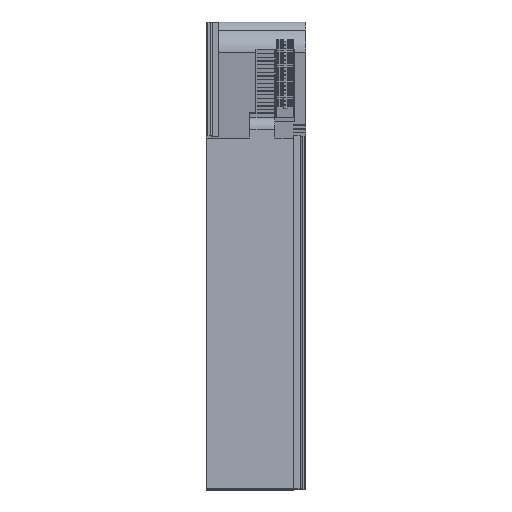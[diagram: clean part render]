
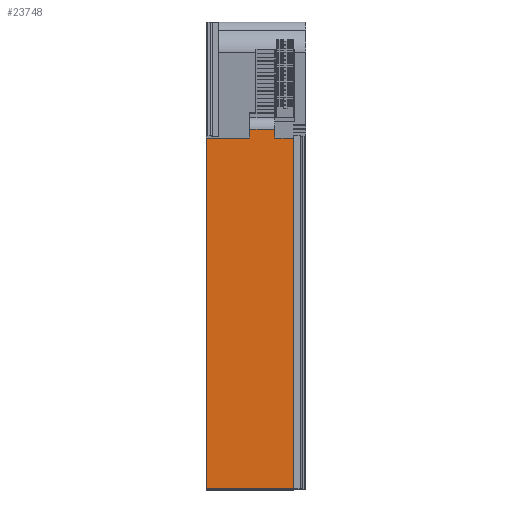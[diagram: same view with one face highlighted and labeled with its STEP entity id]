
A CAD part, top view. The second image highlights one B-rep face of the part: STEP entity #23748.
In plain terms, the highlighted planar face has unit normal (0, 0, 1).
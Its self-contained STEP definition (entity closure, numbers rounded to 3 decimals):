
#425 = CARTESIAN_POINT ( 'NONE',  ( 1890.845, 56.25, -1204.638 ) ) ;
#493 = EDGE_CURVE ( 'NONE', #16015, #14229, #34012, .T. ) ;
#604 = LINE ( 'NONE', #28389, #15308 ) ;
#2808 = DIRECTION ( 'NONE',  ( 0., -1., 0. ) ) ;
#4385 = CARTESIAN_POINT ( 'NONE',  ( 1876.845, 75., -1204.638 ) ) ;
#4572 = LINE ( 'NONE', #4385, #29744 ) ;
#5729 = CARTESIAN_POINT ( 'NONE',  ( 1876.845, 0., -1204.638 ) ) ;
#6574 = CARTESIAN_POINT ( 'NONE',  ( 1890.845, 0., -1204.638 ) ) ;
#6617 = CARTESIAN_POINT ( 'NONE',  ( 1883.845, 56.25, -1204.638 ) ) ;
#8282 = DIRECTION ( 'NONE',  ( -1., 0., 0. ) ) ;
#8366 = DIRECTION ( 'NONE',  ( 0., -1., 0. ) ) ;
#9563 = EDGE_CURVE ( 'NONE', #17201, #14229, #604, .T. ) ;
#9762 = ORIENTED_EDGE ( 'NONE', *, *, #22370, .T. ) ;
#10174 = EDGE_CURVE ( 'NONE', #17201, #20147, #30108, .T. ) ;
#11018 = VECTOR ( 'NONE', #18929, 1000. ) ;
#11024 = PLANE ( 'NONE',  #28816 ) ;
#11384 = FACE_OUTER_BOUND ( 'NONE', #18650, .T. ) ;
#11792 = CARTESIAN_POINT ( 'NONE',  ( 1887.845, 56.25, -1204.638 ) ) ;
#11819 = VECTOR ( 'NONE', #8366, 1000. ) ;
#12994 = DIRECTION ( 'NONE',  ( 0., -1., 0. ) ) ;
#13005 = VERTEX_POINT ( 'NONE', #5729 ) ;
#14109 = CARTESIAN_POINT ( 'NONE',  ( 1869.845, 56.25, -1204.638 ) ) ;
#14229 = VERTEX_POINT ( 'NONE', #6617 ) ;
#14588 = LINE ( 'NONE', #25376, #11819 ) ;
#14591 = VERTEX_POINT ( 'NONE', #6574 ) ;
#15308 = VECTOR ( 'NONE', #2808, 1000. ) ;
#16015 = VERTEX_POINT ( 'NONE', #34881 ) ;
#16415 = DIRECTION ( 'NONE',  ( 1., 0., 0. ) ) ;
#17201 = VERTEX_POINT ( 'NONE', #33912 ) ;
#17627 = DIRECTION ( 'NONE',  ( 1., 0., 0. ) ) ;
#18650 = EDGE_LOOP ( 'NONE', ( #23766, #23293, #27226, #20878, #30189, #34142, #29508, #9762 ) ) ;
#18929 = DIRECTION ( 'NONE',  ( 1., 0., 0. ) ) ;
#19244 = LINE ( 'NONE', #33307, #24511 ) ;
#20147 = VERTEX_POINT ( 'NONE', #35372 ) ;
#20181 = CARTESIAN_POINT ( 'NONE',  ( 1876.845, 0., -1204.638 ) ) ;
#20878 = ORIENTED_EDGE ( 'NONE', *, *, #10174, .F. ) ;
#21273 = LINE ( 'NONE', #35336, #21592 ) ;
#21373 = VERTEX_POINT ( 'NONE', #425 ) ;
#21448 = EDGE_CURVE ( 'NONE', #27290, #21373, #21273, .T. ) ;
#21571 = EDGE_CURVE ( 'NONE', #20147, #27290, #19244, .T. ) ;
#21592 = VECTOR ( 'NONE', #34959, 1000. ) ;
#21820 = EDGE_CURVE ( 'NONE', #16015, #13005, #4572, .T. ) ;
#22370 = EDGE_CURVE ( 'NONE', #13005, #14591, #29118, .T. ) ;
#22944 = VECTOR ( 'NONE', #17627, 1000. ) ;
#23293 = ORIENTED_EDGE ( 'NONE', *, *, #21448, .F. ) ;
#23748 = ADVANCED_FACE ( 'NONE', ( #11384 ), #11024, .F. ) ;
#23766 = ORIENTED_EDGE ( 'NONE', *, *, #29185, .F. ) ;
#24511 = VECTOR ( 'NONE', #30387, 1000. ) ;
#25290 = DIRECTION ( 'NONE',  ( 0., 0., -1. ) ) ;
#25376 = CARTESIAN_POINT ( 'NONE',  ( 1890.845, 75., -1204.638 ) ) ;
#27226 = ORIENTED_EDGE ( 'NONE', *, *, #21571, .F. ) ;
#27290 = VERTEX_POINT ( 'NONE', #11792 ) ;
#28026 = CARTESIAN_POINT ( 'NONE',  ( 1876.845, 75., -1204.638 ) ) ;
#28389 = CARTESIAN_POINT ( 'NONE',  ( 1883.845, 56.25, -1204.638 ) ) ;
#28816 = AXIS2_PLACEMENT_3D ( 'NONE', #28026, #25290, #8282 ) ;
#29118 = LINE ( 'NONE', #20181, #22944 ) ;
#29185 = EDGE_CURVE ( 'NONE', #21373, #14591, #14588, .T. ) ;
#29508 = ORIENTED_EDGE ( 'NONE', *, *, #21820, .T. ) ;
#29744 = VECTOR ( 'NONE', #12994, 1000. ) ;
#29748 = VECTOR ( 'NONE', #16415, 1000. ) ;
#29935 = CARTESIAN_POINT ( 'NONE',  ( 1883.845, 57.618, -1204.638 ) ) ;
#30108 = LINE ( 'NONE', #29935, #29748 ) ;
#30189 = ORIENTED_EDGE ( 'NONE', *, *, #9563, .T. ) ;
#30387 = DIRECTION ( 'NONE',  ( 0., -1., 0. ) ) ;
#33307 = CARTESIAN_POINT ( 'NONE',  ( 1887.845, 56.25, -1204.638 ) ) ;
#33912 = CARTESIAN_POINT ( 'NONE',  ( 1883.845, 57.618, -1204.638 ) ) ;
#34012 = LINE ( 'NONE', #14109, #11018 ) ;
#34142 = ORIENTED_EDGE ( 'NONE', *, *, #493, .F. ) ;
#34881 = CARTESIAN_POINT ( 'NONE',  ( 1876.845, 56.25, -1204.638 ) ) ;
#34959 = DIRECTION ( 'NONE',  ( 1., 0., 0. ) ) ;
#35336 = CARTESIAN_POINT ( 'NONE',  ( 1869.845, 56.25, -1204.638 ) ) ;
#35372 = CARTESIAN_POINT ( 'NONE',  ( 1887.845, 57.618, -1204.638 ) ) ;
